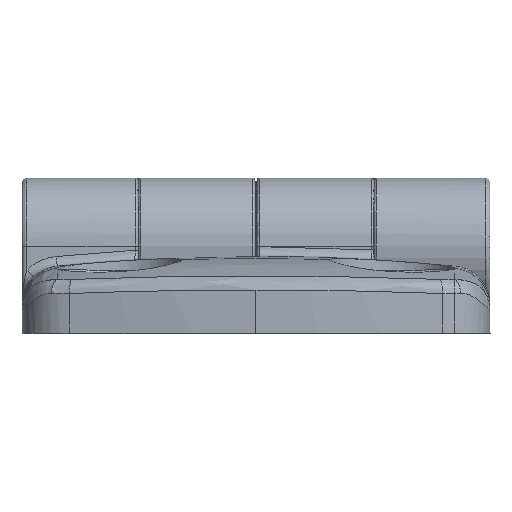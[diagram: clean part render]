
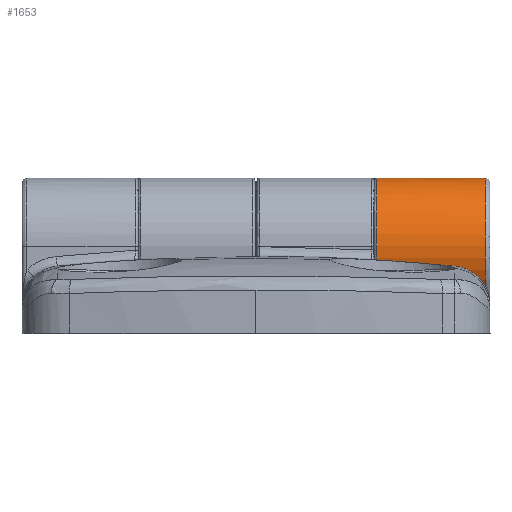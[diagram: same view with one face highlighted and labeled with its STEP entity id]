
A CAD part, top view. The second image highlights one B-rep face of the part: STEP entity #1653.
In plain terms, the highlighted cylindrical face has radius 7 mm (diameter 14 mm), a partial arc.
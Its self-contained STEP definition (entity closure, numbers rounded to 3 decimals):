
#629 = CARTESIAN_POINT ( 'NONE',  ( 23.5, 6.548, 6.603 ) ) ;
#743 = CARTESIAN_POINT ( 'NONE',  ( 24., 8.95, -7. ) ) ;
#967 = CARTESIAN_POINT ( 'NONE',  ( 23.5, 15.768, 1.832 ) ) ;
#1070 = CARTESIAN_POINT ( 'NONE',  ( 23.5, 9.866, 7. ) ) ;
#1544 = B_SPLINE_CURVE_WITH_KNOTS ( 'NONE', 3,
 ( #14611, #1070, #5373, #6996, #9937, #6807, #8280, #967, #3904, #12940, #10029, #16067, #17344, #6901, #14212, #2444, #8380, #8660 ),
 .UNSPECIFIED., .F., .F.,
 ( 4, 2, 2, 2, 2, 2, 2, 2, 4 ),
 ( 0., 0.125, 0.25, 0.375, 0.5, 0.625, 0.75, 0.875, 1. ),
 .UNSPECIFIED. ) ;
#1653 = ADVANCED_FACE ( 'NONE', ( #17924 ), #7295, .T. ) ;
#1666 = DIRECTION ( 'NONE',  ( 1., 0., 0. ) ) ;
#1819 = CARTESIAN_POINT ( 'NONE',  ( 23.5, 8.95, -7. ) ) ;
#2130 = CARTESIAN_POINT ( 'NONE',  ( 23.5, 2.888, 3.5 ) ) ;
#2285 = CARTESIAN_POINT ( 'NONE',  ( 23.5, 8.95, 7. ) ) ;
#2374 = CARTESIAN_POINT ( 'NONE',  ( 23.5, 4.921, 5.757 ) ) ;
#2426 = ORIENTED_EDGE ( 'NONE', *, *, #3381, .F. ) ;
#2444 = CARTESIAN_POINT ( 'NONE',  ( 23.5, 10.782, -6.818 ) ) ;
#3042 = VERTEX_POINT ( 'NONE', #18497 ) ;
#3046 = VERTEX_POINT ( 'NONE', #2130 ) ;
#3207 = ORIENTED_EDGE ( 'NONE', *, *, #18801, .T. ) ;
#3340 = ORIENTED_EDGE ( 'NONE', *, *, #6151, .T. ) ;
#3381 = EDGE_CURVE ( 'NONE', #7897, #3042, #4015, .T. ) ;
#3400 = EDGE_CURVE ( 'NONE', #17228, #3042, #16420, .T. ) ;
#3836 = CARTESIAN_POINT ( 'NONE',  ( 23.5, 2.888, 3.5 ) ) ;
#3904 = CARTESIAN_POINT ( 'NONE',  ( 23.5, 15.95, 0.916 ) ) ;
#4015 = CIRCLE ( 'NONE', #11474, 7. ) ;
#4229 = B_SPLINE_CURVE_WITH_KNOTS ( 'NONE', 3,
 ( #3836, #11138, #9567, #14147, #2374, #13856, #629, #18642, #13961, #2285 ),
 .UNSPECIFIED., .F., .F.,
 ( 4, 2, 2, 2, 4 ),
 ( 0., 0.25, 0.5, 0.75, 1. ),
 .UNSPECIFIED. ) ;
#5373 = CARTESIAN_POINT ( 'NONE',  ( 23.5, 10.782, 6.818 ) ) ;
#5731 = ORIENTED_EDGE ( 'NONE', *, *, #3400, .T. ) ;
#5908 = DIRECTION ( 'NONE',  ( -1., 0., 0. ) ) ;
#5999 = DIRECTION ( 'NONE',  ( 0., 0., -1. ) ) ;
#6014 = CARTESIAN_POINT ( 'NONE',  ( 23.5, 8.95, 7. ) ) ;
#6151 = EDGE_CURVE ( 'NONE', #3046, #8190, #4229, .T. ) ;
#6485 = DIRECTION ( 'NONE',  ( -1., 0., 0. ) ) ;
#6679 = EDGE_CURVE ( 'NONE', #8190, #17228, #1544, .T. ) ;
#6807 = CARTESIAN_POINT ( 'NONE',  ( 23.5, 14.548, 4.302 ) ) ;
#6901 = CARTESIAN_POINT ( 'NONE',  ( 23.5, 13.252, -5.598 ) ) ;
#6996 = CARTESIAN_POINT ( 'NONE',  ( 23.5, 12.475, 6.117 ) ) ;
#7295 = CYLINDRICAL_SURFACE ( 'NONE', #9623, 7. ) ;
#7487 = CARTESIAN_POINT ( 'NONE',  ( 24., 8.95, 0. ) ) ;
#7598 = DIRECTION ( 'NONE',  ( 1., 0., 0. ) ) ;
#7697 = CARTESIAN_POINT ( 'NONE',  ( 24., 2.888, 3.5 ) ) ;
#7897 = VERTEX_POINT ( 'NONE', #16950 ) ;
#8190 = VERTEX_POINT ( 'NONE', #6014 ) ;
#8280 = CARTESIAN_POINT ( 'NONE',  ( 23.5, 15.067, 3.525 ) ) ;
#8380 = CARTESIAN_POINT ( 'NONE',  ( 23.5, 9.866, -7. ) ) ;
#8660 = CARTESIAN_POINT ( 'NONE',  ( 23.5, 8.95, -7. ) ) ;
#9567 = CARTESIAN_POINT ( 'NONE',  ( 23.5, 3.568, 4.518 ) ) ;
#9623 = AXIS2_PLACEMENT_3D ( 'NONE', #7487, #1666, #13231 ) ;
#9937 = CARTESIAN_POINT ( 'NONE',  ( 23.5, 13.252, 5.598 ) ) ;
#10029 = CARTESIAN_POINT ( 'NONE',  ( 23.5, 15.768, -1.832 ) ) ;
#11138 = CARTESIAN_POINT ( 'NONE',  ( 23.5, 3.193, 4.029 ) ) ;
#11474 = AXIS2_PLACEMENT_3D ( 'NONE', #19245, #5908, #5999 ) ;
#12940 = CARTESIAN_POINT ( 'NONE',  ( 23.5, 15.95, -0.916 ) ) ;
#13231 = DIRECTION ( 'NONE',  ( 0., 0., -1. ) ) ;
#13856 = CARTESIAN_POINT ( 'NONE',  ( 23.5, 5.979, 6.368 ) ) ;
#13961 = CARTESIAN_POINT ( 'NONE',  ( 23.5, 8.339, 7. ) ) ;
#13966 = VECTOR ( 'NONE', #6485, 1000. ) ;
#14147 = CARTESIAN_POINT ( 'NONE',  ( 23.5, 4.432, 5.382 ) ) ;
#14212 = CARTESIAN_POINT ( 'NONE',  ( 23.5, 12.475, -6.117 ) ) ;
#14611 = CARTESIAN_POINT ( 'NONE',  ( 23.5, 8.95, 7. ) ) ;
#15111 = LINE ( 'NONE', #7697, #19061 ) ;
#16067 = CARTESIAN_POINT ( 'NONE',  ( 23.5, 15.067, -3.525 ) ) ;
#16420 = LINE ( 'NONE', #743, #13966 ) ;
#16950 = CARTESIAN_POINT ( 'NONE',  ( 12.4, 2.888, 3.5 ) ) ;
#17191 = ORIENTED_EDGE ( 'NONE', *, *, #6679, .T. ) ;
#17228 = VERTEX_POINT ( 'NONE', #1819 ) ;
#17344 = CARTESIAN_POINT ( 'NONE',  ( 23.5, 14.548, -4.302 ) ) ;
#17924 = FACE_OUTER_BOUND ( 'NONE', #18117, .T. ) ;
#18117 = EDGE_LOOP ( 'NONE', ( #2426, #3207, #3340, #17191, #5731 ) ) ;
#18497 = CARTESIAN_POINT ( 'NONE',  ( 12.4, 8.95, -7. ) ) ;
#18642 = CARTESIAN_POINT ( 'NONE',  ( 23.5, 7.728, 6.92 ) ) ;
#18801 = EDGE_CURVE ( 'NONE', #7897, #3046, #15111, .T. ) ;
#19061 = VECTOR ( 'NONE', #7598, 1000. ) ;
#19245 = CARTESIAN_POINT ( 'NONE',  ( 12.4, 8.95, 0. ) ) ;
